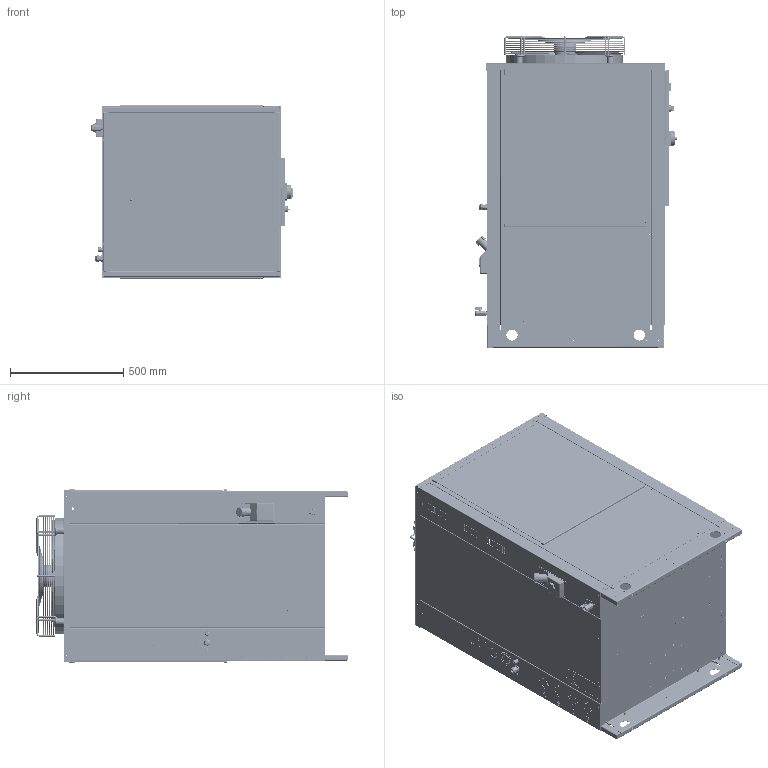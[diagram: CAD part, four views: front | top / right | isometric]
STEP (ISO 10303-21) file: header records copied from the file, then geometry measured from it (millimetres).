
FILE_DESCRIPTION (( 'STEP AP203' ), '1' );
FILE_NAME ('COPIA_F2-2C REV_00.STEP', '2026-07-20T12:43:29', ( '' ), ( '' ), 'SwSTEP 2.0', 'SolidWorks 2023', '' );
FILE_SCHEMA (( 'CONFIG_CONTROL_DESIGN' ));
Length unit declared in the file: millimetre
Products named in the file (81): COPIA_350-450-031; COPIA_CR-2F-00007_004; COPIA_VR-2F-00012_001D_68X34; COPIA_COMPONENTI_VENTOLA_40-MI-E0009; COPIA_T06-0208_DX; COPIA_TE-EL-00018; COPIA_AN-PI-00022; COPIA_SE-RR-00025_000; COPIA_CR-2F-00006_003; COPIA_D01-CD0230P_DX; COPIA_PG-16; COPIA_IN-VI-00001; COPIA_RIVELOX M5; COPIA_VA-A5-00001; COPIA_VE-W5-00007_CESTELLO; COPIA_SE-RP-00044_002; COPIA_VR-2F-00008_003; COPIA_CR-QU-00040_000; COPIA_T09-0146_DX; COPIA_TAPPO 1P  FEM ; COPIA_T06-0207_DX; COPIA_VE-W5-00007_01; COPIA_B72-0268_DX; COPIA_6D-400-S-018-2_22_AF0; COPIA_G82-0010_DX; COPIA_VR-2F-00012_001C; COPIA_SEZIONATORE-GR_D2; COPIA_VR-2F-00012_001; COPIA_CO-MI-00016  X0-CD0232-00(2)_DX_senza bicchiere; COPIA_G72-0024_DX; COPIA_FILETTO_RUBINETTO_VA-A5-00001; COPIA_6D-400-S-012_2_AF0; COPIA_VR-2F-00012_001B; COPIA_VR-2F-00006_003; COPIA_VE-W5-00007_03; COPIA_T09-0001_DX; COPIA_CR-2F-00003_000; COPIA_VR-2F-00003_001; COPIA_VR-2F-00002_001; COPIA_VR-2F-00009_001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
Assembly tree (162 placements, depth 8):
  COPIA_F2-2C REV_00
    COPIA_40-MI-E0009_CON_BASE
      COPIA_50-2F-00001-2_50-2F-00001
        COPIA_VR-2F-00003_001
          COPIA_VR-2F-00003_001
          COPIA_RIVELOX M5  x24
        COPIA_VR-2F-00007_004
        COPIA_VR-2F-00008_003
        COPIA_VR-2F-00005_003
        COPIA_VR-2F-00006_003
        COPIA_CR-2F-00005_004
        COPIA_CR-2F-00006_003
          COPIA_CR-2F-00006_003A
          COPIA_CR-2F-00006_002B
        COPIA_VR-2F-00009_001
        COPIA_CR-2F-00007_004
          COPIA_CR-2F-00007_004
          COPIA_RIVELOX M5  x6
        COPIA_VR-2F-00010_000
        COPIA_VASCHETTA F2 COND DX 32_senza bicchiere
          COPIA_CO-MI-00016  X0-CD0232-00_DX_senza bicchiere 
            COPIA_CO-MI-00016  X0-CD0232-00(2)_DX_senza bicchiere
              COPIA_Y0-CD0232_DX
                COPIA_H48-0020_DX
                COPIA_H48-0024_DX
                COPIA_S82b-0690_DX  x10
                COPIA_B72-0268_DX  x10
                COPIA_D01-CD0230P_DX  x2
                COPIA_T03-0044_DX  x3
                COPIA_T04-0187_DX  x4
                COPIA_T06-0208_DX
                COPIA_T06-0207_DX
              COPIA_G82-0010_DX
              COPIA_G72-0024_DX
              COPIA_T09-0001_DX
              COPIA_T09-0146_DX
              COPIA_T09-0002_DX
          COPIA_PiedeCondensatoreDanfossD38  x4
          COPIA_CR-2F-00004_001
          COPIA_CR-2F-00003_000
        COPIA_VR-2F-00011_000
        COPIA_VR-2F-00012_001  x2
          COPIA_VR-2F-00012_001D_68X34
          COPIA_VR-2F-00012_001C
          COPIA_VR-2F-00012_001B
        COPIA_FI-A4-00001_000  x2
        COPIA_VR-2F-00002_001
        COPIA_MOUSSE_ADESIVA_20X10_L645  x2
        COPIA_MOUSSE_ADESIVA_20X10_L659  x2
        COPIA_CR-2F-00008
      COPIA_COMPONENTI_VENTOLA_40-MI-E0009
        COPIA_AN-PI-00022  x4
        COPIA_WE-W5-00007
          COPIA_350-012-C
          COPIA_6D-400-S-018-2_22_AF0
          COPIA_PRT0002_11_AF0
          COPIA_6D-400-S-012_2_AF0
          COPIA_350-450-031
          COPIA_VE-W5-00007_ELICA
          COPIA_350-022
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Bounding box: 891.59 x 1374.2 x 767 mm (x, y, z)
Volume: 13579572.9 mm3; surface area: 20882403.5 mm2
Topology: 269 solids, 364 shells, 16423 faces, 42748 edges, 26951 vertices
Faces by surface type: plane 8245, cylinder 3873, bspline 2879, cone 817, torus 498, sphere 111
Entity records: 571536 total; most frequent: CARTESIAN_POINT 265119, ORIENTED_EDGE 68299, DIRECTION 49844, EDGE_CURVE 34371, VERTEX_POINT 21604, AXIS2_PLACEMENT_3D 16713, LINE 16418, VECTOR 16418
